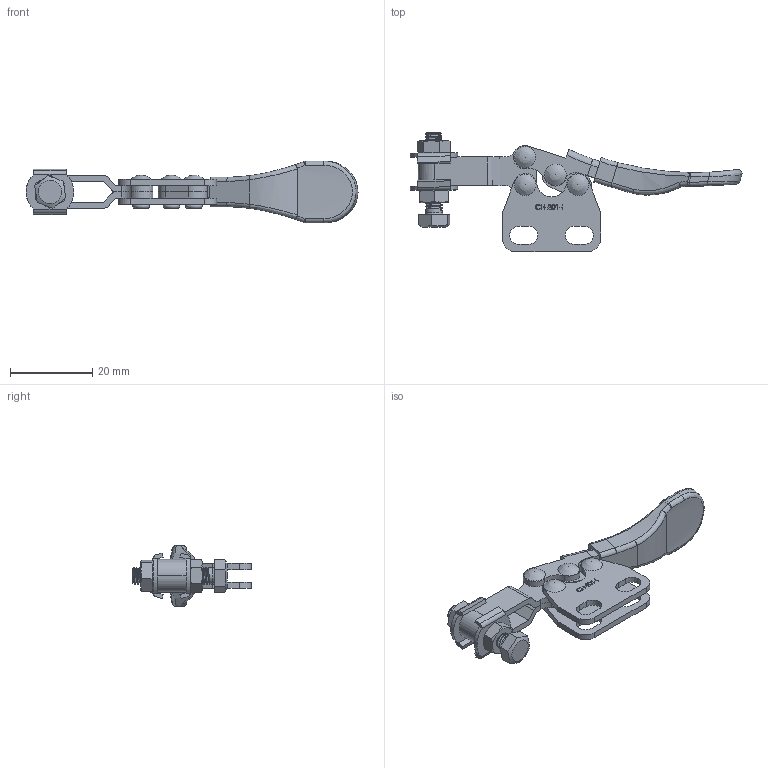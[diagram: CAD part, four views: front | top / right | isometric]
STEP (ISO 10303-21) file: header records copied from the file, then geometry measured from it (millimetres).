
FILE_DESCRIPTION(/* description */ ('STEP AP203'),/* implementation_level */ '2;1');
FILE_NAME(/* name */ 'E:\STRONA\Horizontal toggle clamp\CH-201-I\CH-201-I_ZAMKNIETY.stp',/* time_stamp */ '2019-01-15T13:07:23+01:00',/* author */ ('Admin'),/* organization */ ('Î¢ÈíÖÐ¹ú'),/* preprocessor_version */ 'ST-DEVELOPER v17.2',/* originating_system */ 'Autodesk Inventor 2019',/* authorisation */ '');
FILE_SCHEMA (('AUTOMOTIVE_DESIGN { 1 0 10303 214 3 1 1 }'));
Length unit declared in the file: millimetre
Products named in the file (11): CH-201-I_ZAMKNIETY; CH-201-I-01 FLANGED BASE; CH-201-02 U-BAR; CH-201-A-04; CH-201-03 HANDLE; CH-201-A-05; CH-201-A-03; CH-SA-042007 SPINDLE SUPPLIED; M4 Nut; CH-201-A-06; CH-FW-080
Assembly tree (16 placements, depth 3):
  CH-201-I_ZAMKNIETY
    CH-201-A-06  x4
    CH-201-A-04  x2
    CH-201-I-01 FLANGED BASE
    CH-FW-080  x2
    CH-201-02 U-BAR
    CH-201-03 HANDLE
      CH-201-A-05
      CH-201-A-03
    CH-SA-042007 SPINDLE SUPPLIED
    M4 Nut  x2
Bounding box: 80.61 x 28.93 x 15 mm (x, y, z)
Volume: 4538.6 mm3; surface area: 8587.3 mm2
Topology: 17 solids, 17 shells, 635 faces, 1739 edges, 1161 vertices
Faces by surface type: plane 273, bspline 180, cylinder 143, torus 19, cone 14, sphere 6
Full cylindrical faces by diameter (mm): 0.514 x1, 0.586 x1, 2.4 x4, 3 x20, 3.2 x4, 4 x26, 4.3 x2
Entity records: 41248 total; most frequent: CARTESIAN_POINT 27377, ORIENTED_EDGE 3136, DIRECTION 2230, EDGE_CURVE 1568, VERTEX_POINT 1048, LINE 836, VECTOR 836, AXIS2_PLACEMENT_3D 697
